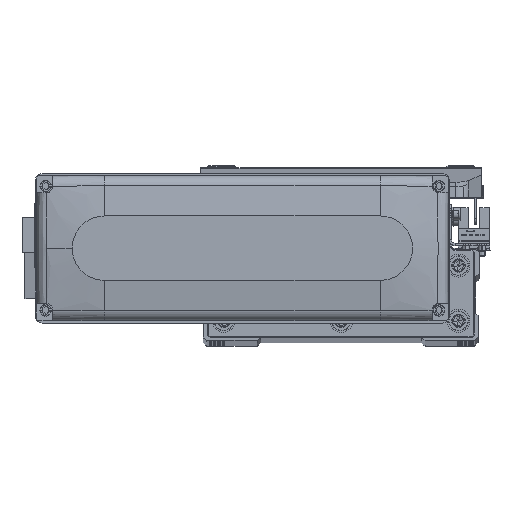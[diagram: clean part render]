
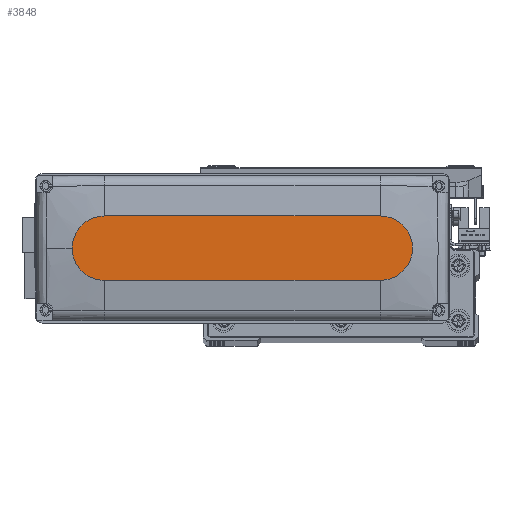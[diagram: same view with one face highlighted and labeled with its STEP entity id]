
A CAD part, top view. The second image highlights one B-rep face of the part: STEP entity #3848.
In plain terms, the highlighted planar face has unit normal (0, 0, 1).
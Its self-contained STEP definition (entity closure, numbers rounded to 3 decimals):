
#3846 = AXIS2_PLACEMENT_3D ( 'NONE', #12305, #23984, #47653 ) ;
#3848 = ADVANCED_FACE ( 'NONE', ( #43222 ), #19867, .T. ) ;
#3866 = ORIENTED_EDGE ( 'NONE', *, *, #45608, .T. ) ;
#4902 = VERTEX_POINT ( 'NONE', #37935 ) ;
#5411 = CARTESIAN_POINT ( 'NONE',  ( 60., 0., 28.5 ) ) ;
#7270 = ORIENTED_EDGE ( 'NONE', *, *, #38656, .T. ) ;
#9098 = DIRECTION ( 'NONE',  ( -1., 0., 0. ) ) ;
#9917 = CARTESIAN_POINT ( 'NONE',  ( 60., -14., 28.5 ) ) ;
#10574 = ORIENTED_EDGE ( 'NONE', *, *, #33843, .T. ) ;
#10855 = VECTOR ( 'NONE', #40919, 1000. ) ;
#12305 = CARTESIAN_POINT ( 'NONE',  ( -60., 0., 28.5 ) ) ;
#12746 = DIRECTION ( 'NONE',  ( 0., 0., 1. ) ) ;
#13543 = DIRECTION ( 'NONE',  ( 1., 0., 0. ) ) ;
#14275 = CIRCLE ( 'NONE', #19963, 14. ) ;
#14350 = EDGE_CURVE ( 'NONE', #16764, #40566, #35159, .T. ) ;
#15305 = AXIS2_PLACEMENT_3D ( 'NONE', #19612, #12746, #46809 ) ;
#16052 = LINE ( 'NONE', #47823, #10855 ) ;
#16764 = VERTEX_POINT ( 'NONE', #9917 ) ;
#18236 = DIRECTION ( 'NONE',  ( 1., 0., 0. ) ) ;
#19612 = CARTESIAN_POINT ( 'NONE',  ( 0., 0., 28.5 ) ) ;
#19867 = PLANE ( 'NONE',  #15305 ) ;
#19963 = AXIS2_PLACEMENT_3D ( 'NONE', #5411, #44526, #13543 ) ;
#22541 = VERTEX_POINT ( 'NONE', #44025 ) ;
#23984 = DIRECTION ( 'NONE',  ( 0., 0., 1. ) ) ;
#27895 = CARTESIAN_POINT ( 'NONE',  ( 60., 0., 28.5 ) ) ;
#31717 = CARTESIAN_POINT ( 'NONE',  ( 74., 0., 28.5 ) ) ;
#33054 = VECTOR ( 'NONE', #9098, 1000. ) ;
#33843 = EDGE_CURVE ( 'NONE', #37828, #22541, #41184, .T. ) ;
#35159 = CIRCLE ( 'NONE', #41683, 14. ) ;
#35769 = LINE ( 'NONE', #47499, #33054 ) ;
#36553 = ORIENTED_EDGE ( 'NONE', *, *, #14350, .T. ) ;
#36676 = EDGE_CURVE ( 'NONE', #40566, #4902, #14275, .T. ) ;
#37828 = VERTEX_POINT ( 'NONE', #42592 ) ;
#37935 = CARTESIAN_POINT ( 'NONE',  ( 60., 14., 28.5 ) ) ;
#38656 = EDGE_CURVE ( 'NONE', #4902, #37828, #35769, .T. ) ;
#40566 = VERTEX_POINT ( 'NONE', #31717 ) ;
#40769 = EDGE_LOOP ( 'NONE', ( #7270, #10574, #3866, #36553, #42714 ) ) ;
#40919 = DIRECTION ( 'NONE',  ( 1., 0., 0. ) ) ;
#41184 = CIRCLE ( 'NONE', #3846, 14. ) ;
#41683 = AXIS2_PLACEMENT_3D ( 'NONE', #27895, #43404, #18236 ) ;
#42592 = CARTESIAN_POINT ( 'NONE',  ( -60., 14., 28.5 ) ) ;
#42714 = ORIENTED_EDGE ( 'NONE', *, *, #36676, .T. ) ;
#43222 = FACE_OUTER_BOUND ( 'NONE', #40769, .T. ) ;
#43404 = DIRECTION ( 'NONE',  ( 0., 0., 1. ) ) ;
#44025 = CARTESIAN_POINT ( 'NONE',  ( -60., -14., 28.5 ) ) ;
#44526 = DIRECTION ( 'NONE',  ( 0., 0., 1. ) ) ;
#45608 = EDGE_CURVE ( 'NONE', #22541, #16764, #16052, .T. ) ;
#46809 = DIRECTION ( 'NONE',  ( 1., 0., 0. ) ) ;
#47499 = CARTESIAN_POINT ( 'NONE',  ( -60., 14., 28.5 ) ) ;
#47653 = DIRECTION ( 'NONE',  ( 1., 0., 0. ) ) ;
#47823 = CARTESIAN_POINT ( 'NONE',  ( -60., -14., 28.5 ) ) ;
